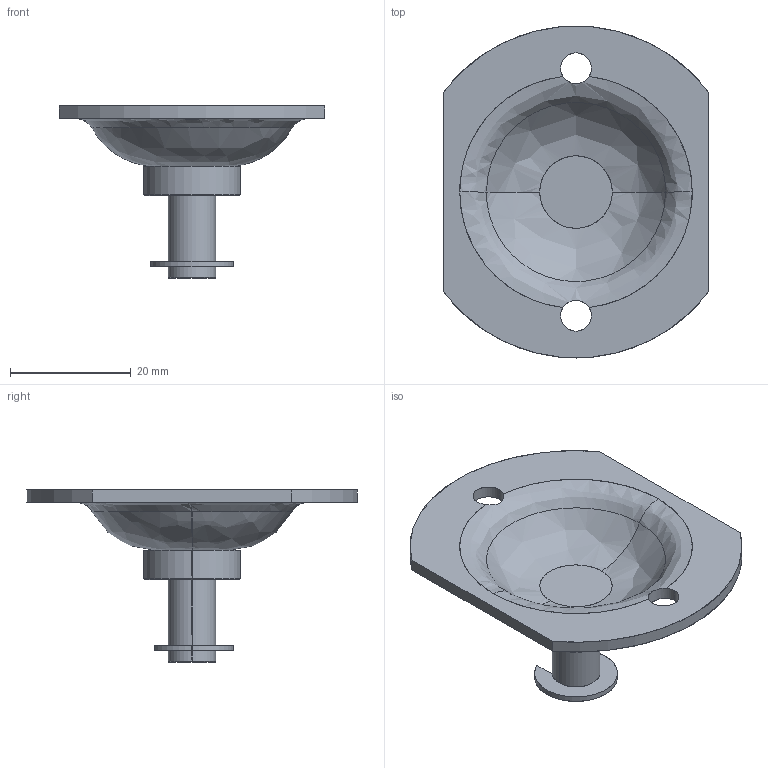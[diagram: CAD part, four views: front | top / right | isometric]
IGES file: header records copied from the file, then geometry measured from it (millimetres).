
Start section: SolidWorks IGES file using analytic representation for surfaces
Bounding box: 44 x 55 x 28.5 mm (x, y, z)
Surface area: 6011.8 mm2 (no closed solid volume)
Topology: 0 solids, 0 shells, 44 faces, 816 edges, 816 vertices
Faces by surface type: revolution 23, bspline 21
